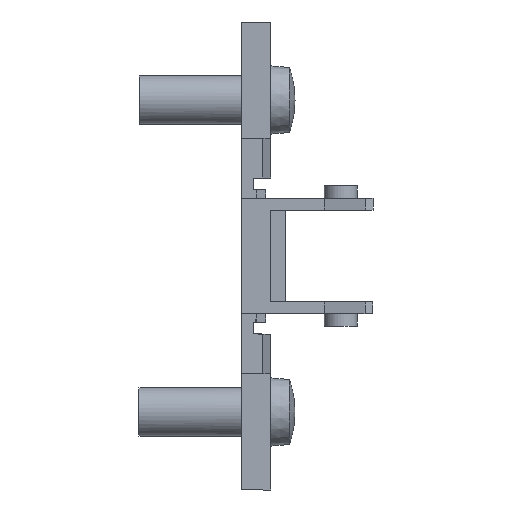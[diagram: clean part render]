
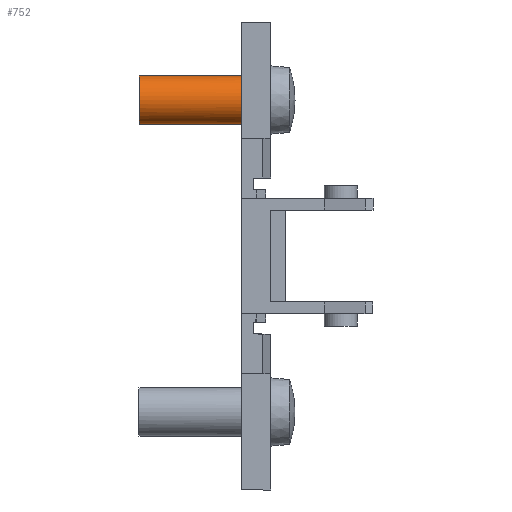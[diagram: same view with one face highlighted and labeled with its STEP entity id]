
A CAD part, front view. The second image highlights one B-rep face of the part: STEP entity #752.
In plain terms, the highlighted cylindrical face has radius 2.5 mm (diameter 5 mm), a partial arc.
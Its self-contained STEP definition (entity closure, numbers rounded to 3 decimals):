
#51 = CIRCLE ( 'NONE', #1762, 2.5 ) ;
#78 = LINE ( 'NONE', #1850, #79 ) ;
#79 = VECTOR ( 'NONE', #1851, 1000. ) ;
#125 = CIRCLE ( 'NONE', #1429, 2.5 ) ;
#477 = LINE ( 'NONE', #2326, #489 ) ;
#489 = VECTOR ( 'NONE', #2346, 1000. ) ;
#547 = CIRCLE ( 'NONE', #1565, 2.5 ) ;
#554 = CIRCLE ( 'NONE', #1766, 2.5 ) ;
#752 = ADVANCED_FACE ( 'NONE', ( #4376 ), #4378, .T. ) ;
#1033 = CARTESIAN_POINT ( 'NONE',  ( -10.5, 0., 16. ) ) ;
#1034 = DIRECTION ( 'NONE',  ( 0., 0., -1. ) ) ;
#1049 = DIRECTION ( 'NONE',  ( -1., 0., 0. ) ) ;
#1200 = EDGE_CURVE ( 'NONE', #2879, #2883, #51, .T. ) ;
#1217 = EDGE_CURVE ( 'NONE', #2882, #2881, #78, .T. ) ;
#1243 = EDGE_CURVE ( 'NONE', #2880, #2881, #125, .T. ) ;
#1321 = AXIS2_PLACEMENT_3D ( 'NONE', #1033, #1049, #1034 ) ;
#1429 = AXIS2_PLACEMENT_3D ( 'NONE', #1905, #1912, #1913 ) ;
#1565 = AXIS2_PLACEMENT_3D ( 'NONE', #2415, #2417, #2418 ) ;
#1568 = EDGE_CURVE ( 'NONE', #2878, #2880, #477, .T. ) ;
#1615 = EDGE_CURVE ( 'NONE', #2883, #2882, #547, .T. ) ;
#1636 = EDGE_CURVE ( 'NONE', #2878, #2879, #554, .T. ) ;
#1762 = AXIS2_PLACEMENT_3D ( 'NONE', #1815, #1816, #1817 ) ;
#1766 = AXIS2_PLACEMENT_3D ( 'NONE', #2416, #2429, #2430 ) ;
#1815 = CARTESIAN_POINT ( 'NONE',  ( 0., 0., 16. ) ) ;
#1816 = DIRECTION ( 'NONE',  ( 1., 0., 0. ) ) ;
#1817 = DIRECTION ( 'NONE',  ( 0., 0., -1. ) ) ;
#1850 = CARTESIAN_POINT ( 'NONE',  ( -10.5, 0., 13.5 ) ) ;
#1851 = DIRECTION ( 'NONE',  ( -1., 0., 0. ) ) ;
#1905 = CARTESIAN_POINT ( 'NONE',  ( -10.5, 0., 16. ) ) ;
#1912 = DIRECTION ( 'NONE',  ( 1., 0., 0. ) ) ;
#1913 = DIRECTION ( 'NONE',  ( 0., 0., -1. ) ) ;
#2326 = CARTESIAN_POINT ( 'NONE',  ( -10.5, 0., 18.5 ) ) ;
#2346 = DIRECTION ( 'NONE',  ( -1., 0., 0. ) ) ;
#2415 = CARTESIAN_POINT ( 'NONE',  ( 0., 0., 16. ) ) ;
#2416 = CARTESIAN_POINT ( 'NONE',  ( 0., 0., 16. ) ) ;
#2417 = DIRECTION ( 'NONE',  ( 1., 0., 0. ) ) ;
#2418 = DIRECTION ( 'NONE',  ( 0., 0., -1. ) ) ;
#2429 = DIRECTION ( 'NONE',  ( 1., 0., 0. ) ) ;
#2430 = DIRECTION ( 'NONE',  ( 0., 0., -1. ) ) ;
#2595 = CARTESIAN_POINT ( 'NONE',  ( 0., 0., 18.5 ) ) ;
#2596 = CARTESIAN_POINT ( 'NONE',  ( 0., -2.25, 17.09 ) ) ;
#2597 = CARTESIAN_POINT ( 'NONE',  ( -10.5, 0., 18.5 ) ) ;
#2598 = CARTESIAN_POINT ( 'NONE',  ( -10.5, 0., 13.5 ) ) ;
#2599 = CARTESIAN_POINT ( 'NONE',  ( 0., 0., 13.5 ) ) ;
#2600 = CARTESIAN_POINT ( 'NONE',  ( 0., -2.25, 14.91 ) ) ;
#2878 = VERTEX_POINT ( 'NONE', #2595 ) ;
#2879 = VERTEX_POINT ( 'NONE', #2596 ) ;
#2880 = VERTEX_POINT ( 'NONE', #2597 ) ;
#2881 = VERTEX_POINT ( 'NONE', #2598 ) ;
#2882 = VERTEX_POINT ( 'NONE', #2599 ) ;
#2883 = VERTEX_POINT ( 'NONE', #2600 ) ;
#3669 = ORIENTED_EDGE ( 'NONE', *, *, #1636, .F. ) ;
#3674 = ORIENTED_EDGE ( 'NONE', *, *, #1568, .T. ) ;
#3773 = ORIENTED_EDGE ( 'NONE', *, *, #1615, .F. ) ;
#3778 = ORIENTED_EDGE ( 'NONE', *, *, #1200, .F. ) ;
#3798 = ORIENTED_EDGE ( 'NONE', *, *, #1217, .F. ) ;
#3809 = ORIENTED_EDGE ( 'NONE', *, *, #1243, .T. ) ;
#4157 = EDGE_LOOP ( 'NONE', ( #3669, #3674, #3809, #3798, #3773, #3778 ) ) ;
#4376 = FACE_OUTER_BOUND ( 'NONE', #4157, .T. ) ;
#4378 = CYLINDRICAL_SURFACE ( 'NONE', #1321, 2.5 ) ;
